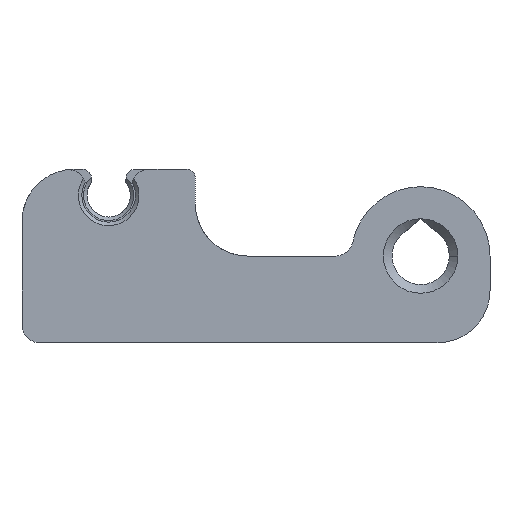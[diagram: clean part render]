
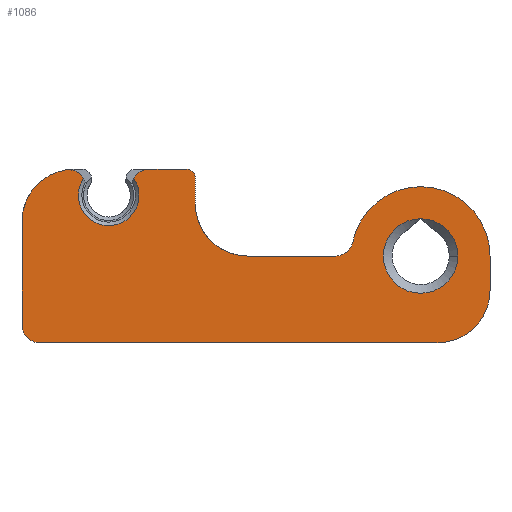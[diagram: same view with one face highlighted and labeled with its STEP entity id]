
A CAD part, front view. The second image highlights one B-rep face of the part: STEP entity #1086.
In plain terms, the highlighted planar face has unit normal (0, -1, 0).
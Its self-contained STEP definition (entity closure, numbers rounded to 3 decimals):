
#66=CARTESIAN_POINT('',(11.5,-64.2,2.));
#67=DIRECTION('',(0.,-1.,0.));
#68=DIRECTION('',(0.,0.,-1.));
#69=AXIS2_PLACEMENT_3D('',#66,#67,#68);
#71=CARTESIAN_POINT('',(-11.5,-64.2,0.));
#72=DIRECTION('',(0.,-1.,0.));
#73=DIRECTION('',(-1.,0.,0.));
#74=AXIS2_PLACEMENT_3D('',#71,#72,#73);
#76=DIRECTION('',(0.,0.,1.));
#77=VECTOR('',#76,6.);
#78=CARTESIAN_POINT('',(-12.5,-64.2,0.));
#79=LINE('',#78,#77);
#80=CARTESIAN_POINT('',(-9.5,-64.2,6.));
#81=DIRECTION('',(0.,1.,0.));
#82=DIRECTION('',(-1.,0.,0.));
#83=AXIS2_PLACEMENT_3D('',#80,#81,#82);
#85=CARTESIAN_POINT('',(-9.808,-64.2,7.976));
#86=DIRECTION('',(0.,1.,0.));
#87=DIRECTION('',(-0.154,0.,0.988));
#88=AXIS2_PLACEMENT_3D('',#85,#86,#87);
#90=CARTESIAN_POINT('',(-7.5,-64.2,7.5));
#91=DIRECTION('',(0.,-1.,0.));
#92=DIRECTION('',(-0.827,0.,0.562));
#93=AXIS2_PLACEMENT_3D('',#90,#91,#92);
#95=CARTESIAN_POINT('',(-5.185,-64.2,8.));
#96=DIRECTION('',(0.,1.,0.));
#97=DIRECTION('',(-0.872,0.,0.49));
#98=AXIS2_PLACEMENT_3D('',#95,#96,#97);
#100=DIRECTION('',(1.,0.,0.));
#101=VECTOR('',#100,2.185);
#102=CARTESIAN_POINT('',(-5.185,-64.2,9.));
#103=LINE('',#102,#101);
#104=CARTESIAN_POINT('',(-3.,-64.2,8.5));
#105=DIRECTION('',(0.,1.,0.));
#106=DIRECTION('',(0.,0.,1.));
#107=AXIS2_PLACEMENT_3D('',#104,#105,#106);
#109=DIRECTION('',(0.,0.,-1.));
#110=VECTOR('',#109,1.5);
#111=CARTESIAN_POINT('',(-2.5,-64.2,8.5));
#112=LINE('',#111,#110);
#113=CARTESIAN_POINT('',(0.5,-64.2,7.));
#114=DIRECTION('',(0.,-1.,0.));
#115=DIRECTION('',(-1.,0.,0.));
#116=AXIS2_PLACEMENT_3D('',#113,#114,#115);
#118=DIRECTION('',(1.,0.,0.));
#119=VECTOR('',#118,5.101);
#120=CARTESIAN_POINT('',(0.5,-64.2,4.));
#121=LINE('',#120,#119);
#122=CARTESIAN_POINT('',(5.601,-64.2,5.));
#123=DIRECTION('',(0.,-1.,0.));
#124=DIRECTION('',(0.,0.,-1.));
#125=AXIS2_PLACEMENT_3D('',#122,#123,#124);
#127=CARTESIAN_POINT('',(10.5,-64.2,4.));
#128=DIRECTION('',(0.,1.,0.));
#129=DIRECTION('',(-0.98,0.,0.2));
#130=AXIS2_PLACEMENT_3D('',#127,#128,#129);
#132=DIRECTION('',(0.,0.,-1.));
#133=VECTOR('',#132,2.);
#134=CARTESIAN_POINT('',(14.5,-64.2,4.));
#135=LINE('',#134,#133);
#136=CARTESIAN_POINT('',(10.5,-64.2,4.));
#137=DIRECTION('',(0.,-1.,0.));
#138=DIRECTION('',(1.,0.,0.));
#139=AXIS2_PLACEMENT_3D('',#136,#137,#138);
#381=DIRECTION('',(1.,0.,0.));
#382=VECTOR('',#381,23.);
#383=CARTESIAN_POINT('',(-11.5,-64.2,-1.));
#384=LINE('',#383,#382);
#744=CARTESIAN_POINT('',(10.5,-64.2,4.));
#745=DIRECTION('',(0.,1.,0.));
#746=DIRECTION('',(1.,0.,0.));
#747=AXIS2_PLACEMENT_3D('',#744,#745,#746);
#749=CARTESIAN_POINT('',(10.5,-64.2,6.15));
#790=CARTESIAN_POINT('',(12.65,-64.2,4.));
#792=VERTEX_POINT('',#790);
#793=CARTESIAN_POINT('',(-6.057,-64.2,8.49));
#794=CARTESIAN_POINT('',(-5.185,-64.2,9.));
#795=VERTEX_POINT('',#793);
#796=VERTEX_POINT('',#794);
#797=CARTESIAN_POINT('',(-3.,-64.2,9.));
#798=VERTEX_POINT('',#797);
#799=CARTESIAN_POINT('',(-2.5,-64.2,8.5));
#800=VERTEX_POINT('',#799);
#801=CARTESIAN_POINT('',(-2.5,-64.2,7.));
#802=VERTEX_POINT('',#801);
#803=CARTESIAN_POINT('',(0.5,-64.2,4.));
#804=VERTEX_POINT('',#803);
#805=CARTESIAN_POINT('',(5.601,-64.2,4.));
#806=VERTEX_POINT('',#805);
#807=CARTESIAN_POINT('',(6.581,-64.2,4.8));
#808=VERTEX_POINT('',#807);
#809=CARTESIAN_POINT('',(-12.5,-64.2,6.));
#810=CARTESIAN_POINT('',(-9.963,-64.2,8.964));
#811=VERTEX_POINT('',#809);
#812=VERTEX_POINT('',#810);
#813=CARTESIAN_POINT('',(-8.947,-64.2,8.484));
#814=VERTEX_POINT('',#813);
#930=CARTESIAN_POINT('',(-12.5,-64.2,0.));
#931=VERTEX_POINT('',#930);
#932=CARTESIAN_POINT('',(-11.5,-64.2,-1.));
#933=VERTEX_POINT('',#932);
#935=CARTESIAN_POINT('',(14.5,-64.2,4.));
#937=VERTEX_POINT('',#935);
#938=CARTESIAN_POINT('',(11.5,-64.2,-1.));
#939=CARTESIAN_POINT('',(14.5,-64.2,2.));
#940=VERTEX_POINT('',#938);
#941=VERTEX_POINT('',#939);
#949=VERTEX_POINT('',#749);
#1042=CARTESIAN_POINT('',(12.5,-64.2,0.));
#1043=DIRECTION('',(0.,1.,0.));
#1044=DIRECTION('',(-1.,0.,0.));
#1045=AXIS2_PLACEMENT_3D('',#1042,#1043,#1044);
#1046=PLANE('',#1045);
#1048=ORIENTED_EDGE('',*,*,#1047,.F.);
#1050=ORIENTED_EDGE('',*,*,#1049,.F.);
#1052=ORIENTED_EDGE('',*,*,#1051,.F.);
#1054=ORIENTED_EDGE('',*,*,#1053,.T.);
#1056=ORIENTED_EDGE('',*,*,#1055,.T.);
#1058=ORIENTED_EDGE('',*,*,#1057,.T.);
#1060=ORIENTED_EDGE('',*,*,#1059,.T.);
#1062=ORIENTED_EDGE('',*,*,#1061,.T.);
#1064=ORIENTED_EDGE('',*,*,#1063,.T.);
#1066=ORIENTED_EDGE('',*,*,#1065,.T.);
#1068=ORIENTED_EDGE('',*,*,#1067,.T.);
#1070=ORIENTED_EDGE('',*,*,#1069,.T.);
#1072=ORIENTED_EDGE('',*,*,#1071,.T.);
#1074=ORIENTED_EDGE('',*,*,#1073,.T.);
#1076=ORIENTED_EDGE('',*,*,#1075,.T.);
#1078=ORIENTED_EDGE('',*,*,#1077,.T.);
#1079=EDGE_LOOP('',(#1048,#1050,#1052,#1054,#1056,#1058,#1060,#1062,#1064,#1066,
#1068,#1070,#1072,#1074,#1076,#1078));
#1080=FACE_OUTER_BOUND('',#1079,.F.);
#1081=ORIENTED_EDGE('',*,*,#1034,.T.);
#1083=ORIENTED_EDGE('',*,*,#1082,.F.);
#1084=EDGE_LOOP('',(#1081,#1083));
#1085=FACE_BOUND('',#1084,.F.);
#1086=ADVANCED_FACE('',(#1080,#1085),#1046,.F.);
#70=CIRCLE('',#69,3.);
#75=CIRCLE('',#74,1.);
#84=CIRCLE('',#83,3.);
#89=CIRCLE('',#88,1.);
#94=CIRCLE('',#93,1.75);
#99=CIRCLE('',#98,1.);
#108=CIRCLE('',#107,0.5);
#117=CIRCLE('',#116,3.);
#126=CIRCLE('',#125,1.);
#131=CIRCLE('',#130,4.);
#140=CIRCLE('',#139,2.15);
#748=CIRCLE('',#747,2.15);
#1034=EDGE_CURVE('',#792,#949,#140,.T.);
#1047=EDGE_CURVE('',#940,#941,#70,.T.);
#1049=EDGE_CURVE('',#933,#940,#384,.T.);
#1051=EDGE_CURVE('',#931,#933,#75,.T.);
#1053=EDGE_CURVE('',#931,#811,#79,.T.);
#1055=EDGE_CURVE('',#811,#812,#84,.T.);
#1057=EDGE_CURVE('',#812,#814,#89,.T.);
#1059=EDGE_CURVE('',#814,#795,#94,.T.);
#1061=EDGE_CURVE('',#795,#796,#99,.T.);
#1063=EDGE_CURVE('',#796,#798,#103,.T.);
#1065=EDGE_CURVE('',#798,#800,#108,.T.);
#1067=EDGE_CURVE('',#800,#802,#112,.T.);
#1069=EDGE_CURVE('',#802,#804,#117,.T.);
#1071=EDGE_CURVE('',#804,#806,#121,.T.);
#1073=EDGE_CURVE('',#806,#808,#126,.T.);
#1075=EDGE_CURVE('',#808,#937,#131,.T.);
#1077=EDGE_CURVE('',#937,#941,#135,.T.);
#1082=EDGE_CURVE('',#792,#949,#748,.T.);
